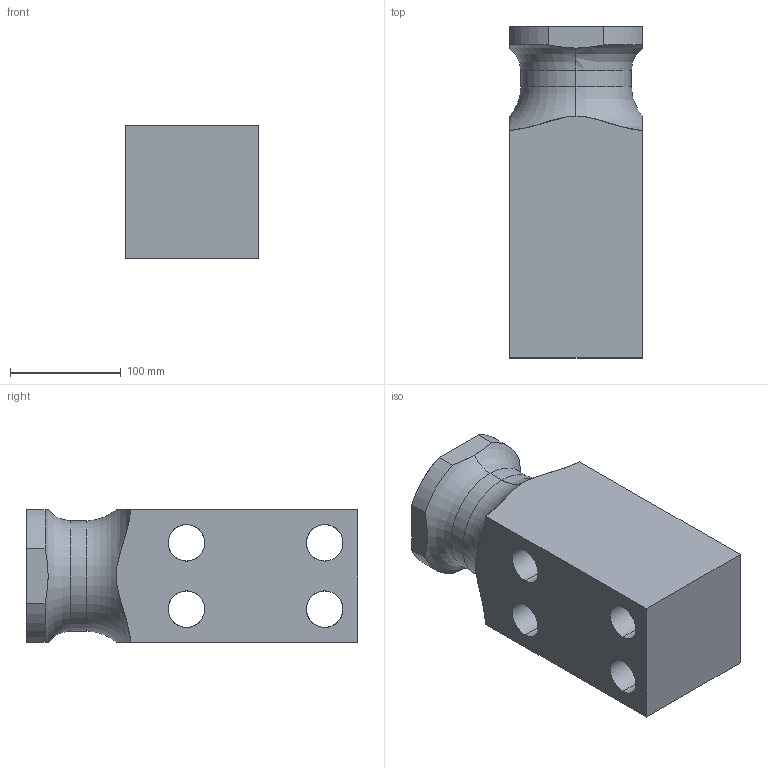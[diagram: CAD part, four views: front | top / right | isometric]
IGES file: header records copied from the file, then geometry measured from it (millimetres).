
Start section: START RECORD GO HERE.
Global section: file name: 395V-04-120-300.igs; native system: DASSAULT SYSTEMES CATIA V5 R20 - www.3ds.com; preprocessor: CATIA Version 5 Release 20 ; author: Utente; organization: NB04-ASUS; date: 20200410.130801; units: millimetre
Bounding box: 120 x 300 x 120 mm (x, y, z)
Surface area: 212624 mm2 (no closed solid volume)
Topology: 0 solids, 0 shells, 40 faces, 212 edges, 212 vertices
Faces by surface type: revolution 26, extrusion 14
